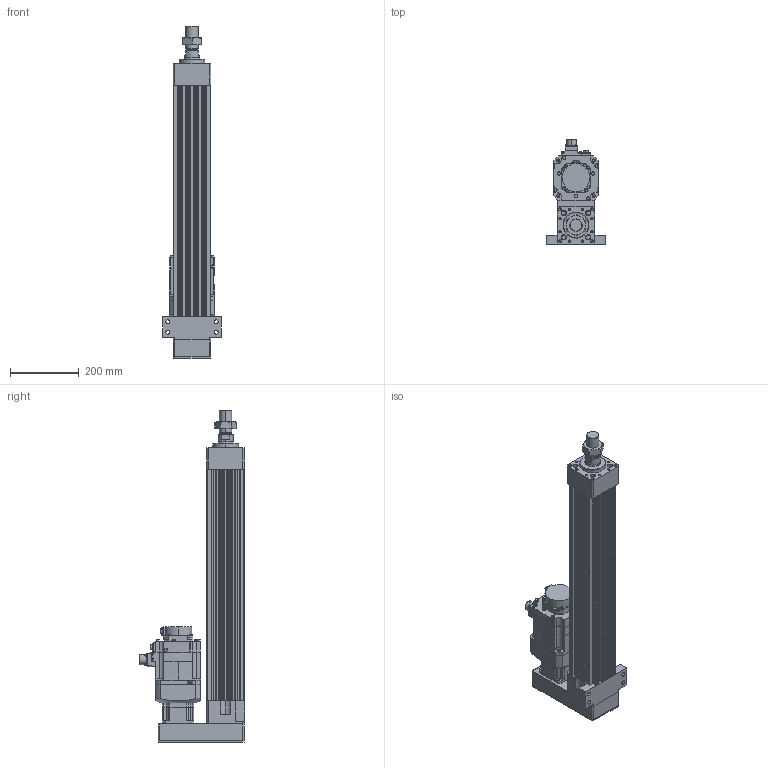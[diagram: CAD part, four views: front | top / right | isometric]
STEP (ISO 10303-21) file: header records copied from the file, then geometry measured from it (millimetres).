
FILE_DESCRIPTION (( 'STEP AP203' ), '1' );
FILE_NAME ('HES110NS(HS)-P500-W010G00-M-FFC.STEP', '2026-06-10T05:55:07', ( 'tms' ), ( '' ), 'SwSTEP 2.0', 'SolidWorks 2013', '' );
FILE_SCHEMA (( 'CONFIG_CONTROL_DESIGN' ));
Length unit declared in the file: millimetre
Products named in the file (8): M36X1.5P; AB0901; HES110-P-G90; HES110-FFC-500; AB0902; HES110NS(HS)-P500-W010G00-M-FFC; HG-SR102B; HES110-M-ROD-500
Assembly tree (7 placements, depth 2):
  HES110NS(HS)-P500-W010G00-M-FFC
    HES110-FFC-500
    HES110-M-ROD-500
    M36X1.5P
    HES110-P-G90
    AB0901
    AB0902
    HG-SR102B
Bounding box: 170 x 304.99 x 963 mm (x, y, z)
Volume: 8902678 mm3; surface area: 1181994.5 mm2
Topology: 5 solids, 12 shells, 1191 faces, 3016 edges, 1941 vertices
Faces by surface type: cylinder 566, plane 511, cone 100, bspline 10, torus 4
Entity records: 37824 total; most frequent: CARTESIAN_POINT 7444, DIRECTION 6527, ORIENTED_EDGE 5940, EDGE_CURVE 2980, AXIS2_PLACEMENT_3D 2448, VERTEX_POINT 1941, VECTOR 1631, LINE 1631
